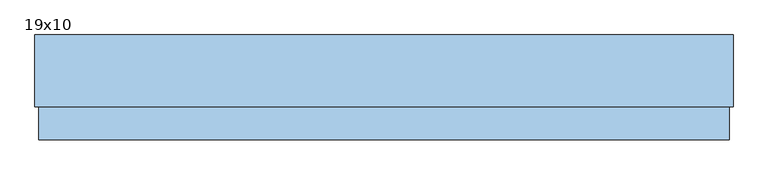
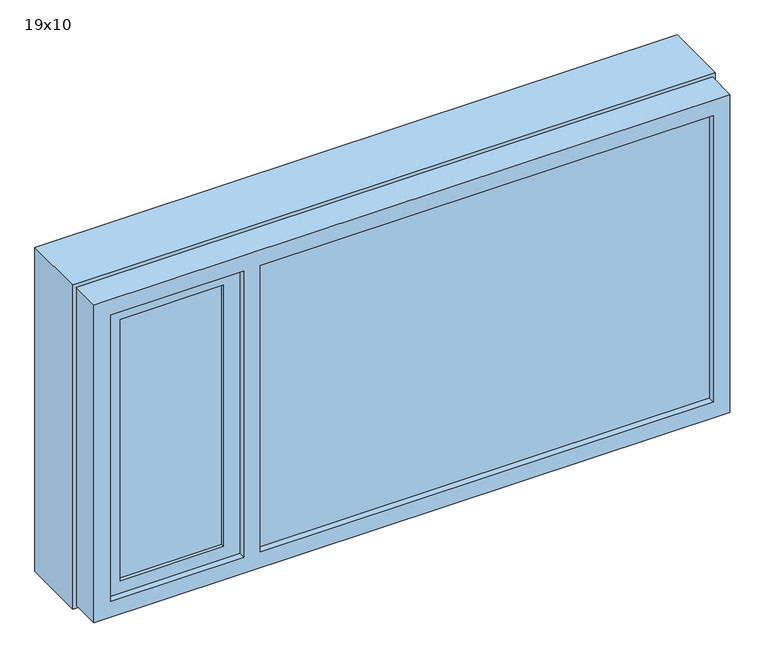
"""IFC4 building model written with IfcOpenShell, lengths in millimetres: window geometry, Vindu 2 felt med åpning side : 19x10."""

import ifcopenshell
import ifcopenshell.guid

model = None  # the IFC model being written
_history = None  # IfcOwnerHistory: only IFC2X3 demands one
_inside = {}  # id of a spatial element -> (the spatial element, [elements in it])
_under = {}  # id of a project, library or spatial element -> (it, [spatial elements below it])
_declared = {}  # id of a project -> (the project, [libraries it declares])
_typed = {}  # id of a type object -> (the type object, [elements of that type])
_made_of = {}  # id of a material, layer set ... -> (it, [elements and type objects made of it])


def new_model(schema):
    """Start an empty IFC model of exactly this schema.

    Asked for "IFC4X3", IfcOpenShell would pick the latest addendum, in which some entities
    have other attributes; the version numbers below select the first issue.
    IFC2X3 requires an IfcOwnerHistory on every rooted entity: one is made here for all.
    """
    global model, _history
    if schema == "IFC4X3":
        model = ifcopenshell.file(schema_version=(4, 3, 0, 0))
    else:
        model = ifcopenshell.file(schema=schema)
    _inside.clear()
    _under.clear()
    _declared.clear()
    _typed.clear()
    _made_of.clear()
    _history = None
    if model.schema == "IFC2X3":
        org = make("IfcOrganization", Name="unknown")
        user = make(
            "IfcPersonAndOrganization",
            ThePerson=make("IfcPerson", FamilyName="unknown"),
            TheOrganization=org,
        )
        app = make(
            "IfcApplication",
            ApplicationDeveloper=org,
            Version="unknown",
            ApplicationFullName="unknown",
            ApplicationIdentifier="unknown",
        )
        _history = make(
            "IfcOwnerHistory",
            OwningUser=user,
            OwningApplication=app,
            ChangeAction="ADDED",
            CreationDate=0,
        )
    return model


def make(cls, **values):
    """One entity of the class cls with the attributes given. An attribute that is None is left unset."""
    return model.create_entity(
        cls, **{name: value for name, value in values.items() if value is not None}
    )


def rooted(cls, **values):
    """An entity with a GlobalId (a new one), such as an element, a storey or a relation."""
    return make(cls, GlobalId=ifcopenshell.guid.new(), OwnerHistory=_history, **values)


def si_unit(unit_type, name, prefix=None):
    """IfcSIUnit, for example si_unit("LENGTHUNIT", "METRE", prefix="MILLI")."""
    return make("IfcSIUnit", UnitType=unit_type, Prefix=prefix, Name=name)


def assignment(units):
    """IfcUnitAssignment: the units of a project."""
    return None if units is None else make("IfcUnitAssignment", Units=units)


def point(xyz):
    """IfcCartesianPoint."""
    return None if xyz is None else make("IfcCartesianPoint", Coordinates=xyz)


def direction(xyz):
    """IfcDirection."""
    return None if xyz is None else make("IfcDirection", DirectionRatios=xyz)


def frame(location, z_axis=None, x_axis=None):
    """IfcAxis2Placement3D, a coordinate frame: its origin and axes. An axis left out is left unset."""
    return make(
        "IfcAxis2Placement3D",
        Location=point(location),
        Axis=direction(z_axis),
        RefDirection=direction(x_axis),
    )


def origin():
    """The frame at (0, 0, 0) with its axes left unset."""
    return frame((0.0, 0.0, 0.0))


def place(relative_to, where):
    """IfcLocalPlacement: puts the frame where relative to a parent placement (None: the world)."""
    return make(
        "IfcLocalPlacement", PlacementRelTo=relative_to, RelativePlacement=where
    )


def context(
    kind, dimensions, precision=None, world=None, true_north=None, identifier=None
):
    """IfcGeometricRepresentationContext, for example the 3D "Model" context."""
    return make(
        "IfcGeometricRepresentationContext",
        ContextIdentifier=identifier,
        ContextType=kind,
        CoordinateSpaceDimension=dimensions,
        Precision=precision,
        WorldCoordinateSystem=world,
        TrueNorth=true_north,
    )


def project(units=None, contexts=None):
    """IfcProject with its units and contexts."""
    return rooted(
        "IfcProject",
        Name="project",
        RepresentationContexts=contexts,
        UnitsInContext=assignment(units),
    )


def spatial(cls, under=None, at=None, **own):
    """A site, building, storey or space (cls), placed at a placement, below another one or the project."""
    s = rooted(cls, ObjectPlacement=at, **own)
    if under is not None:
        _under.setdefault(under.id(), (under, []))[1].append(s)
    return s


def polyline(points):
    """IfcPolyline through the points."""
    return make("IfcPolyline", Points=[point(p) for p in points])


def outline(outer, holes=None, kind="AREA"):
    """IfcArbitraryClosedProfileDef: a profile drawn as a closed curve; with holes, ...WithVoids."""
    if holes is None:
        return make("IfcArbitraryClosedProfileDef", ProfileType=kind, OuterCurve=outer)
    return make(
        "IfcArbitraryProfileDefWithVoids",
        ProfileType=kind,
        OuterCurve=outer,
        InnerCurves=holes,
    )


def extrude(swept, where, along, depth):
    """IfcExtrudedAreaSolid: the profile swept, set in the frame where, extruded along a direction by depth."""
    return make(
        "IfcExtrudedAreaSolid",
        SweptArea=swept,
        Position=where,
        ExtrudedDirection=direction(along),
        Depth=depth,
    )


def shape(context_of_items, identifier, shape_type, items):
    """IfcShapeRepresentation: the items that make up one representation, for example the "Body"."""
    return make(
        "IfcShapeRepresentation",
        ContextOfItems=context_of_items,
        RepresentationIdentifier=identifier,
        RepresentationType=shape_type,
        Items=items,
    )


def source(mapping_origin, context_of_items, identifier, shape_type, items):
    """IfcRepresentationMap: a shape defined once, which mapped items show again and again."""
    return make(
        "IfcRepresentationMap",
        MappingOrigin=mapping_origin,
        MappedRepresentation=shape(context_of_items, identifier, shape_type, items),
    )


def transform(
    local_origin,
    x_axis=None,
    y_axis=None,
    z_axis=None,
    scale=None,
    scale2=None,
    scale3=None,
    uniform=True,
):
    """IfcCartesianTransformationOperator3D, or its non-uniform kind. x_axis, y_axis, z_axis: its Axis1, 2, 3."""
    if uniform:
        return make(
            "IfcCartesianTransformationOperator3D",
            Axis1=direction(x_axis),
            Axis2=direction(y_axis),
            LocalOrigin=point(local_origin),
            Scale=scale,
            Axis3=direction(z_axis),
        )
    return make(
        "IfcCartesianTransformationOperator3DnonUniform",
        Axis1=direction(x_axis),
        Axis2=direction(y_axis),
        LocalOrigin=point(local_origin),
        Scale=scale,
        Axis3=direction(z_axis),
        Scale2=scale2,
        Scale3=scale3,
    )


def mapped(mapping_source, mapping_target):
    """IfcMappedItem: shows the shape of a source again, moved by a transform."""
    return make(
        "IfcMappedItem", MappingSource=mapping_source, MappingTarget=mapping_target
    )


def made_of(thing, what):
    """Note that an element or type object is made of a material, layer set ...; save() writes the relation."""
    if what is not None:
        _made_of.setdefault(what.id(), (what, []))[1].append(thing)
    return thing


def element(
    cls,
    number,
    at=None,
    inside=None,
    cuts=None,
    type_object=None,
    material=None,
    context=None,
    identifier="Body",
    shape_type=None,
    held_by="IfcProductDefinitionShape",
    body=None,
    shapes=None,
    **own,
):
    """One element of the class cls, such as IfcWall. Its Tag is "e" and its number.

    at: its placement. inside: the storey or other place that contains it. cuts: it is an
    opening in that element (IfcRelVoidsElement). A single representation is given by context,
    identifier, shape_type and body (its items); several are given by shapes. held_by: the class
    of the entity that holds the representations. save() writes the other relations.
    """
    e = rooted(cls, Tag="e%d" % number, ObjectPlacement=at, **own)
    if body is not None:
        shapes = [shape(context, identifier, shape_type, body)]
    if shapes is not None:
        e.Representation = make(held_by, Representations=shapes)
    if inside is not None:
        _inside.setdefault(inside.id(), (inside, []))[1].append(e)
    if cuts is not None:
        rooted(
            "IfcRelVoidsElement", RelatingBuildingElement=cuts, RelatedOpeningElement=e
        )
    if type_object is not None:
        _typed.setdefault(type_object.id(), (type_object, []))[1].append(e)
    return made_of(e, material)


def aggregate(whole, parts):
    """IfcRelAggregates: a whole, such as a stair, and the parts it consists of."""
    return rooted("IfcRelAggregates", RelatingObject=whole, RelatedObjects=parts)


def save(model, path):
    """Write the relations noted so far, then the file.

    IfcRelAggregates (storeys below a building ...), IfcRelContainedInSpatialStructure (elements
    in a storey), IfcRelDefinesByType, IfcRelAssociatesMaterial and IfcRelDeclares: one each for
    every whole, place, type object, material and project.
    """
    for whole, parts in _under.values():
        aggregate(whole, parts)
    for where, things in _inside.values():
        rooted(
            "IfcRelContainedInSpatialStructure",
            RelatedElements=things,
            RelatingStructure=where,
        )
    for kind, things in _typed.values():
        rooted("IfcRelDefinesByType", RelatedObjects=things, RelatingType=kind)
    for what, things in _made_of.values():
        rooted("IfcRelAssociatesMaterial", RelatedObjects=things, RelatingMaterial=what)
    for by, libraries in _declared.values():
        rooted("IfcRelDeclares", RelatingContext=by, RelatedDefinitions=libraries)
    model.write(path)


def window_19x10_47b7c5a4(model_context):
    return source(origin(), model_context, "Body", "SweptSolid", [
        extrude(outline(polyline([(-497.3982693, -95.0), (-497.3982693, -75.0), (862.6017307, -75.0), (862.6017307, -95.0), (-497.3982693, -95.0)])), frame((0.0, 0.0, 860.0), z_axis=(0.0, 0.0, 1.0), x_axis=(1.0, 0.0, 0.0)), (0.0, 0.0, 1.0), 910.0),
        extrude(outline(polyline([(1770.0, -547.3982693), (1770.0, -947.3982693), (860.0, -947.3982693), (860.0, -547.3982693), (1770.0, -547.3982693)]), holes=[polyline([(900.0, -907.3982693), (1730.0, -907.3982693), (1730.0, -597.3982693), (900.0, -597.3982693), (900.0, -907.3982693)])]), frame((0.0, -95.0, 0.0), z_axis=(0.0, 1.0, 0.0), x_axis=(0.0, 0.0, 1.0)), (0.0, 0.0, 1.0), 40.0),
        extrude(outline(polyline([(800.0, 922.6017307), (1830.0, 922.6017307), (1830.0, -1007.3982693), (800.0, -1007.3982693), (800.0, 922.6017307)]), holes=[polyline([(815.0, 907.6017307), (815.0, -992.3982693), (1815.0, -992.3982693), (1815.0, 907.6017307), (815.0, 907.6017307)])]), frame((0.0, -23.0, 0.0), z_axis=(0.0, 1.0, 0.0), x_axis=(0.0, 0.0, 1.0)), (0.0, 0.0, 1.0), 198.0),
        extrude(outline(polyline([(-907.3982693, -85.0), (-907.3982693, -65.0), (-597.3982693, -65.0), (-597.3982693, -85.0), (-907.3982693, -85.0)])), frame((0.0, 0.0, 900.0), z_axis=(0.0, 0.0, 1.0), x_axis=(1.0, 0.0, 0.0)), (0.0, 0.0, 1.0), 830.0),
        extrude(outline(polyline([(1820.0, -997.3982693), (810.0, -997.3982693), (810.0, 912.6017307), (1820.0, 912.6017307), (1820.0, -997.3982693)]), holes=[polyline([(1770.0, -547.3982693), (860.0, -547.3982693), (860.0, -947.3982693), (1770.0, -947.3982693), (1770.0, -547.3982693)]), polyline([(1770.0, -497.3982693), (1770.0, 862.6017307), (860.0, 862.6017307), (860.0, -497.3982693), (1770.0, -497.3982693)])]), frame((0.0, -115.0, 0.0), z_axis=(0.0, 1.0, 0.0), x_axis=(0.0, 0.0, 1.0)), (0.0, 0.0, 1.0), 92.0),
    ])


if __name__ == "__main__":
    model = new_model("IFC4")
    model_context = context("Model", 3, world=origin())
    ifc_project = project(units=[si_unit("LENGTHUNIT", "METRE", prefix="MILLI")], contexts=[model_context])
    site = spatial("IfcSite", under=ifc_project)
    building = spatial("IfcBuilding", under=site)
    placement = place(None, origin())
    window_19x10_shape = window_19x10_47b7c5a4(model_context)
    element("IfcWindow", 1, ObjectType="Vindu 2 felt med åpning side : 19x10", at=placement, inside=building, context=model_context, shape_type="MappedRepresentation", body=[
        mapped(window_19x10_shape, transform((0.0, 0.0, 0.0), x_axis=(1.0, 0.0, 0.0), y_axis=(0.0, 1.0, 0.0), z_axis=(0.0, 0.0, 1.0))),
    ])
    save(model, "model.ifc")
